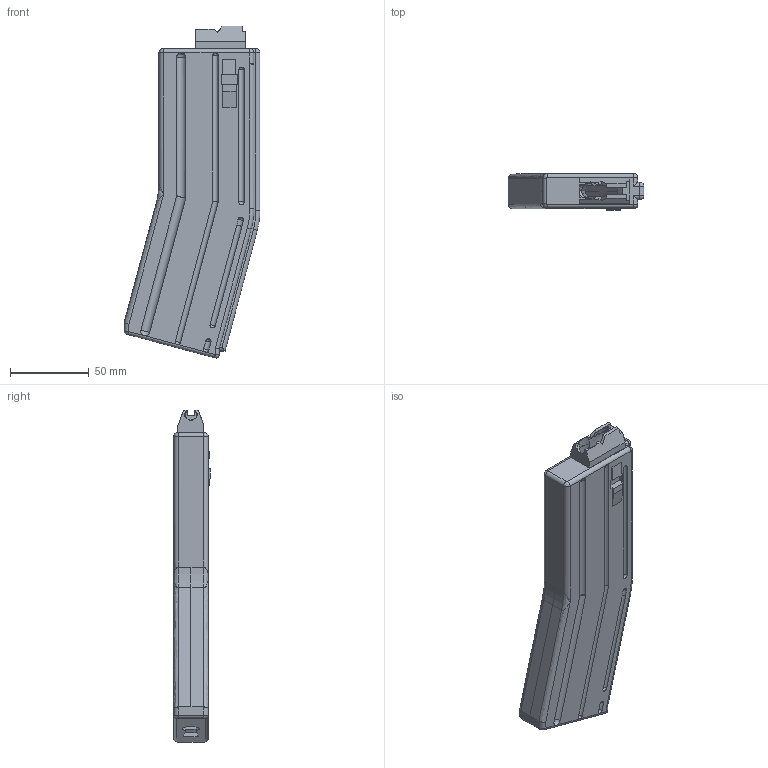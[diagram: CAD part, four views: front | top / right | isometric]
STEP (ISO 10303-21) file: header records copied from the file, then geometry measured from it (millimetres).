
FILE_DESCRIPTION(/* description */ (''),/* implementation_level */ '2;1');
FILE_NAME(/* name */ '//vboxsvr/bigsql-win-testing/CAD/DD2-GIT/freeman1337/cmmg-22lr-mag-25round/STEP/cmmg-mag-new-collab v3.step',/* time_stamp */ '2021-06-10T14:18:39-07:00',/* author */ (''),/* organization */ (''),/* preprocessor_version */ 'ST-DEVELOPER v18.1',/* originating_system */ 'Autodesk Translation Framework v10.9.0.1377',/* authorisation */ '');
FILE_SCHEMA (('AUTOMOTIVE_DESIGN { 1 0 10303 214 3 1 1 }'));
Length unit declared in the file: millimetre
Products named in the file (1): BodyCombined
Bounding box: 86 x 23.32 x 210.15 mm (x, y, z)
Volume: 215492.1 mm3; surface area: 52450.7 mm2
Topology: 1 solids, 2 shells, 324 faces, 843 edges, 515 vertices
Faces by surface type: plane 123, bspline 115, cylinder 72, torus 5, cone 5, sphere 4
Entity records: 14686 total; most frequent: CARTESIAN_POINT 7453, ORIENTED_EDGE 1662, DIRECTION 1258, EDGE_CURVE 831, VERTEX_POINT 515, AXIS2_PLACEMENT_3D 457, LINE 344, VECTOR 344
